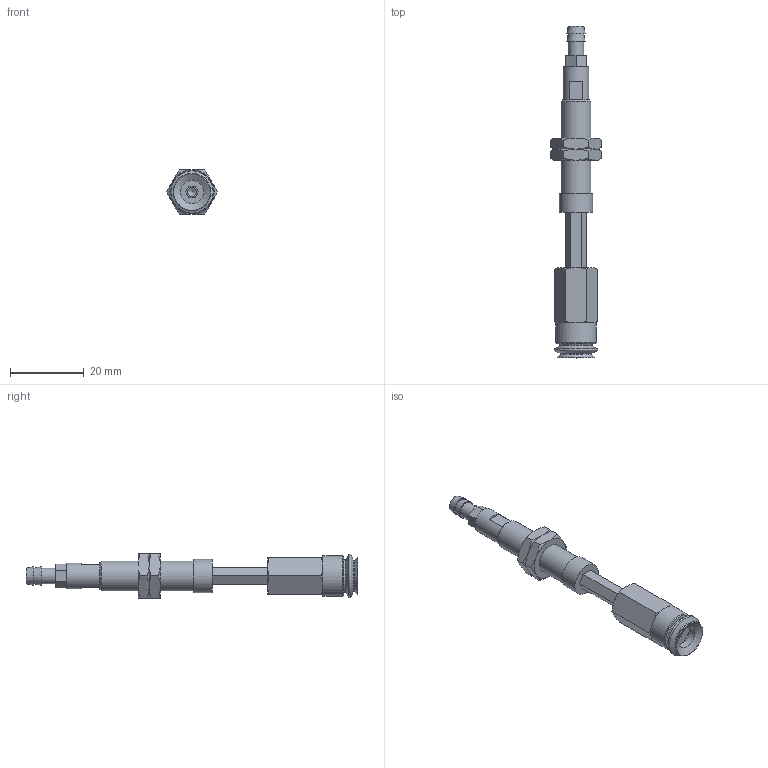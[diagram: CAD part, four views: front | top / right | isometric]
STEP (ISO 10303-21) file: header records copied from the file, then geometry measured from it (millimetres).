
FILE_DESCRIPTION(('STEP AP203'),'1');
FILE_NAME('-T.stp','2025-08-27T06:49:02',(' '),(' '),'Spatial InterOp 3D',' ',' ');
FILE_SCHEMA(('CONFIG_CONTROL_DESIGN'));
Length unit declared in the file: millimetre
Products named in the file (8): BNABPJTH-10-15-※-T; ADAPTER; NAPCTH-10-15-MBODY; Adapter-10-NAPJ; NAPJH-10-15-NUT; NAPJTH-10-15-FBODY; BPJG-10-※; T
Assembly tree (8 placements, depth 2):
  BNABPJTH-10-15-※-T
    ADAPTER
    NAPCTH-10-15-MBODY
    Adapter-10-NAPJ
    NAPJH-10-15-NUT  x2
    NAPJTH-10-15-FBODY
    BPJG-10-※
    T
Bounding box: 13.86 x 90 x 12 mm (x, y, z)
Volume: 4686.6 mm3; surface area: 5420.2 mm2
Topology: 8 solids, 8 shells, 150 faces, 320 edges, 196 vertices
Faces by surface type: plane 72, cone 54, cylinder 17, torus 7
Full cylindrical faces by diameter (mm): 2.5 x1, 3 x1, 4.134 x2, 4.3 x1, 4.6 x1, 5 x2, 6.266 x1, 7 x1, 7.188 x2, 7.8 x1, 8 x2, 9 x1, 11 x1
Entity records: 3926 total; most frequent: CARTESIAN_POINT 1009, DIRECTION 528, ORIENTED_EDGE 444, EDGE_CURVE 222, AXIS2_PLACEMENT_3D 218, EDGE_LOOP 186, VERTEX_POINT 159, FACE_OUTER_BOUND 150
